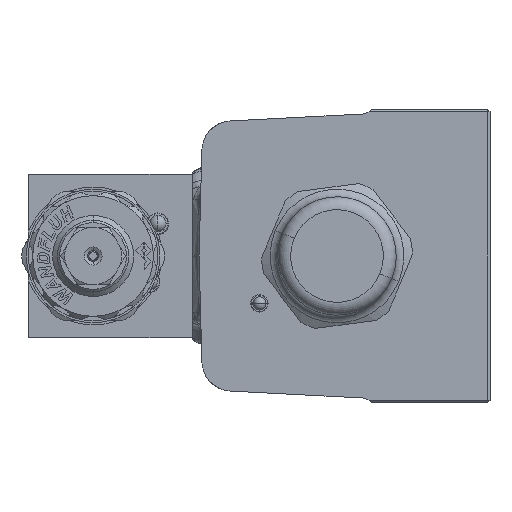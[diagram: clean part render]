
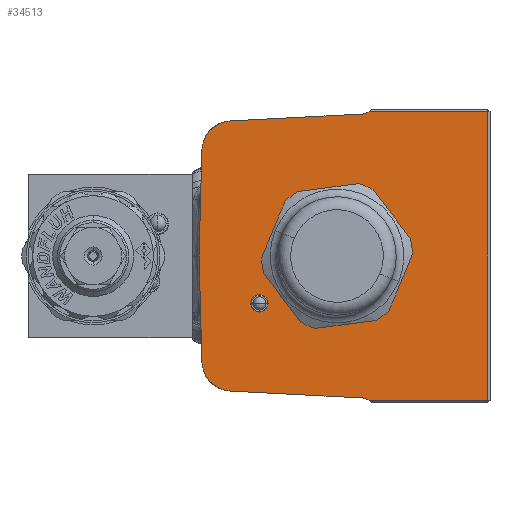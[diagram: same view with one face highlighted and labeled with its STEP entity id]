
A CAD part, left-side view. The second image highlights one B-rep face of the part: STEP entity #34513.
In plain terms, the highlighted planar face has unit normal (-1, 0, 0).
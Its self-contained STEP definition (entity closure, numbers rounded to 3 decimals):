
#267 = AXIS2_PLACEMENT_3D ( 'NONE', #14587, #55478, #20469 ) ;
#468 = CIRCLE ( 'NONE', #67017, 7. ) ;
#601 = AXIS2_PLACEMENT_3D ( 'NONE', #20289, #61102, #26175 ) ;
#670 = DIRECTION ( 'NONE',  ( -1., 0., 0. ) ) ;
#783 = CARTESIAN_POINT ( 'NONE',  ( -46.6, 31.978, 0.837 ) ) ;
#1149 = CIRCLE ( 'NONE', #27874, 3. ) ;
#1873 = CARTESIAN_POINT ( 'NONE',  ( -46.6, 31.978, -0.837 ) ) ;
#2543 = CARTESIAN_POINT ( 'NONE',  ( -46.6, -7.444, -33.5 ) ) ;
#2718 = EDGE_CURVE ( 'NONE', #64530, #26926, #14610, .T. ) ;
#2787 = DIRECTION ( 'NONE',  ( 0., -0.999, -0.052 ) ) ;
#2935 = LINE ( 'NONE', #4505, #10909 ) ;
#3416 = ORIENTED_EDGE ( 'NONE', *, *, #7044, .F. ) ;
#3589 = CARTESIAN_POINT ( 'NONE',  ( -46.6, -5.85, -32.94 ) ) ;
#3960 = ORIENTED_EDGE ( 'NONE', *, *, #2718, .T. ) ;
#4505 = CARTESIAN_POINT ( 'NONE',  ( -46.6, -35.5, 33.5 ) ) ;
#4576 = DIRECTION ( 'NONE',  ( 0., 0., 1. ) ) ;
#5376 = VERTEX_POINT ( 'NONE', #33061 ) ;
#7044 = EDGE_CURVE ( 'NONE', #18579, #5376, #54510, .T. ) ;
#8171 = CARTESIAN_POINT ( 'NONE',  ( -46.6, 1.706, -32.544 ) ) ;
#10909 = VECTOR ( 'NONE', #44806, 1000. ) ;
#11967 = AXIS2_PLACEMENT_3D ( 'NONE', #69063, #34225, #74952 ) ;
#13136 = AXIS2_PLACEMENT_3D ( 'NONE', #35429, #670, #41326 ) ;
#13433 = ORIENTED_EDGE ( 'NONE', *, *, #67701, .F. ) ;
#14199 = CARTESIAN_POINT ( 'NONE',  ( -46.6, -35., 33.5 ) ) ;
#14587 = CARTESIAN_POINT ( 'NONE',  ( -46.6, 0., 0. ) ) ;
#14610 = LINE ( 'NONE', #22641, #72592 ) ;
#17331 = VECTOR ( 'NONE', #60173, 1000. ) ;
#17564 = ORIENTED_EDGE ( 'NONE', *, *, #64453, .F. ) ;
#17931 = CARTESIAN_POINT ( 'NONE',  ( -46.6, -7.444, 33.5 ) ) ;
#18511 = FACE_OUTER_BOUND ( 'NONE', #26685, .T. ) ;
#18579 = VERTEX_POINT ( 'NONE', #56847 ) ;
#19489 = EDGE_CURVE ( 'NONE', #26926, #50349, #2935, .T. ) ;
#20289 = CARTESIAN_POINT ( 'NONE',  ( -46.6, -35.5, -34. ) ) ;
#20394 = AXIS2_PLACEMENT_3D ( 'NONE', #67465, #32576, #73308 ) ;
#20469 = DIRECTION ( 'NONE',  ( 0., -1., 0. ) ) ;
#21136 = CIRCLE ( 'NONE', #20394, 16. ) ;
#21313 = VERTEX_POINT ( 'NONE', #3589 ) ;
#21784 = EDGE_CURVE ( 'NONE', #61830, #66009, #65476, .T. ) ;
#22468 = AXIS2_PLACEMENT_3D ( 'NONE', #26863, #67613, #32733 ) ;
#22641 = CARTESIAN_POINT ( 'NONE',  ( -46.6, -35., -34. ) ) ;
#22797 = CARTESIAN_POINT ( 'NONE',  ( -46.6, 16., 0. ) ) ;
#22893 = CARTESIAN_POINT ( 'NONE',  ( -46.6, -5.693, 35.936 ) ) ;
#25590 = VERTEX_POINT ( 'NONE', #55426 ) ;
#25631 = DIRECTION ( 'NONE',  ( 0., -0.999, 0.052 ) ) ;
#25691 = CARTESIAN_POINT ( 'NONE',  ( -46.6, 24.726, 31.337 ) ) ;
#25934 = PLANE ( 'NONE',  #601 ) ;
#26175 = DIRECTION ( 'NONE',  ( 0., 0., 1. ) ) ;
#26685 = EDGE_LOOP ( 'NONE', ( #66947, #59565, #3960, #28502, #73089, #61243, #57099, #3416, #32681, #36880, #59150 ) ) ;
#26863 = CARTESIAN_POINT ( 'NONE',  ( -46.6, -5.693, -35.936 ) ) ;
#26926 = VERTEX_POINT ( 'NONE', #14199 ) ;
#27874 = AXIS2_PLACEMENT_3D ( 'NONE', #22893, #63679, #28777 ) ;
#28043 = CARTESIAN_POINT ( 'NONE',  ( -46.6, 24.36, 24.347 ) ) ;
#28502 = ORIENTED_EDGE ( 'NONE', *, *, #19489, .T. ) ;
#28777 = DIRECTION ( 'NONE',  ( 0., 0., 1. ) ) ;
#28781 = CIRCLE ( 'NONE', #72448, 2. ) ;
#29243 = CARTESIAN_POINT ( 'NONE',  ( -46.6, -35.5, -33.5 ) ) ;
#29832 = EDGE_LOOP ( 'NONE', ( #61687, #60048 ) ) ;
#30320 = VERTEX_POINT ( 'NONE', #36941 ) ;
#30946 = CARTESIAN_POINT ( 'NONE',  ( -46.6, 18., -11. ) ) ;
#31078 = EDGE_CURVE ( 'NONE', #58736, #64530, #35472, .T. ) ;
#32229 = EDGE_CURVE ( 'NONE', #63878, #67342, #51705, .T. ) ;
#32576 = DIRECTION ( 'NONE',  ( -1., 0., 0. ) ) ;
#32681 = ORIENTED_EDGE ( 'NONE', *, *, #53613, .T. ) ;
#32733 = DIRECTION ( 'NONE',  ( 0., 0., 1. ) ) ;
#32856 = CARTESIAN_POINT ( 'NONE',  ( -46.6, 18., -9. ) ) ;
#33061 = CARTESIAN_POINT ( 'NONE',  ( -46.6, 31.358, 24.53 ) ) ;
#33937 = DIRECTION ( 'NONE',  ( 0., 0., 1. ) ) ;
#34225 = DIRECTION ( 'NONE',  ( 1., 0., 0. ) ) ;
#34513 = ADVANCED_FACE ( 'NONE', ( #18511, #63175, #49530 ), #25934, .T. ) ;
#34663 = VECTOR ( 'NONE', #35110, 1000. ) ;
#35110 = DIRECTION ( 'NONE',  ( 0., -1., 0. ) ) ;
#35429 = CARTESIAN_POINT ( 'NONE',  ( -46.6, 18., -11. ) ) ;
#35472 = LINE ( 'NONE', #29243, #34663 ) ;
#36777 = DIRECTION ( 'NONE',  ( 0., 0., 1. ) ) ;
#36880 = ORIENTED_EDGE ( 'NONE', *, *, #32229, .F. ) ;
#36941 = CARTESIAN_POINT ( 'NONE',  ( -46.6, -16., 0. ) ) ;
#39915 = EDGE_CURVE ( 'NONE', #21313, #58736, #46006, .T. ) ;
#40799 = EDGE_CURVE ( 'NONE', #50349, #25590, #1149, .T. ) ;
#41326 = DIRECTION ( 'NONE',  ( 0., 0., 1. ) ) ;
#44806 = DIRECTION ( 'NONE',  ( 0., 1., 0. ) ) ;
#46006 = CIRCLE ( 'NONE', #22468, 3. ) ;
#47570 = LINE ( 'NONE', #8171, #49196 ) ;
#49196 = VECTOR ( 'NONE', #2787, 1000. ) ;
#49530 = FACE_BOUND ( 'NONE', #51856, .T. ) ;
#50349 = VERTEX_POINT ( 'NONE', #17931 ) ;
#50813 = EDGE_CURVE ( 'NONE', #60877, #25590, #75453, .T. ) ;
#51705 = CIRCLE ( 'NONE', #11967, 7. ) ;
#51856 = EDGE_LOOP ( 'NONE', ( #13433, #17564 ) ) ;
#52878 = VERTEX_POINT ( 'NONE', #22797 ) ;
#52954 = DIRECTION ( 'NONE',  ( 0., -0.026, 1. ) ) ;
#53613 = EDGE_CURVE ( 'NONE', #18579, #67342, #56940, .T. ) ;
#54367 = EDGE_CURVE ( 'NONE', #63878, #21313, #47570, .T. ) ;
#54510 = LINE ( 'NONE', #783, #71732 ) ;
#55426 = CARTESIAN_POINT ( 'NONE',  ( -46.6, -5.85, 32.94 ) ) ;
#55478 = DIRECTION ( 'NONE',  ( -1., 0., 0. ) ) ;
#56225 = CARTESIAN_POINT ( 'NONE',  ( -46.6, -35., -33.5 ) ) ;
#56847 = CARTESIAN_POINT ( 'NONE',  ( -46.6, 32., 0. ) ) ;
#56940 = LINE ( 'NONE', #1873, #17331 ) ;
#57099 = ORIENTED_EDGE ( 'NONE', *, *, #59724, .T. ) ;
#58736 = VERTEX_POINT ( 'NONE', #2543 ) ;
#59150 = ORIENTED_EDGE ( 'NONE', *, *, #54367, .T. ) ;
#59565 = ORIENTED_EDGE ( 'NONE', *, *, #31078, .T. ) ;
#59724 = EDGE_CURVE ( 'NONE', #60877, #5376, #468, .T. ) ;
#60048 = ORIENTED_EDGE ( 'NONE', *, *, #21784, .F. ) ;
#60173 = DIRECTION ( 'NONE',  ( 0., -0.026, -1. ) ) ;
#60574 = CARTESIAN_POINT ( 'NONE',  ( -46.6, 1.706, 32.544 ) ) ;
#60877 = VERTEX_POINT ( 'NONE', #25691 ) ;
#61102 = DIRECTION ( 'NONE',  ( -1., 0., 0. ) ) ;
#61218 = CARTESIAN_POINT ( 'NONE',  ( -46.6, 18., -13. ) ) ;
#61243 = ORIENTED_EDGE ( 'NONE', *, *, #50813, .F. ) ;
#61384 = EDGE_CURVE ( 'NONE', #66009, #61830, #28781, .T. ) ;
#61687 = ORIENTED_EDGE ( 'NONE', *, *, #61384, .F. ) ;
#61830 = VERTEX_POINT ( 'NONE', #61218 ) ;
#63175 = FACE_BOUND ( 'NONE', #29832, .T. ) ;
#63679 = DIRECTION ( 'NONE',  ( 1., 0., 0. ) ) ;
#63878 = VERTEX_POINT ( 'NONE', #66413 ) ;
#64453 = EDGE_CURVE ( 'NONE', #52878, #30320, #69879, .T. ) ;
#64530 = VERTEX_POINT ( 'NONE', #56225 ) ;
#65476 = CIRCLE ( 'NONE', #13136, 2. ) ;
#66009 = VERTEX_POINT ( 'NONE', #32856 ) ;
#66413 = CARTESIAN_POINT ( 'NONE',  ( -46.6, 24.726, -31.337 ) ) ;
#66947 = ORIENTED_EDGE ( 'NONE', *, *, #39915, .T. ) ;
#67017 = AXIS2_PLACEMENT_3D ( 'NONE', #28043, #68783, #33937 ) ;
#67342 = VERTEX_POINT ( 'NONE', #74931 ) ;
#67465 = CARTESIAN_POINT ( 'NONE',  ( -46.6, 0., 0. ) ) ;
#67613 = DIRECTION ( 'NONE',  ( 1., 0., 0. ) ) ;
#67701 = EDGE_CURVE ( 'NONE', #30320, #52878, #21136, .T. ) ;
#68783 = DIRECTION ( 'NONE',  ( -1., 0., 0. ) ) ;
#69063 = CARTESIAN_POINT ( 'NONE',  ( -46.6, 24.36, -24.347 ) ) ;
#69879 = CIRCLE ( 'NONE', #267, 16. ) ;
#71671 = DIRECTION ( 'NONE',  ( -1., 0., 0. ) ) ;
#71732 = VECTOR ( 'NONE', #52954, 1000. ) ;
#72448 = AXIS2_PLACEMENT_3D ( 'NONE', #30946, #71671, #36777 ) ;
#72573 = VECTOR ( 'NONE', #25631, 1000. ) ;
#72592 = VECTOR ( 'NONE', #4576, 1000. ) ;
#73089 = ORIENTED_EDGE ( 'NONE', *, *, #40799, .T. ) ;
#73308 = DIRECTION ( 'NONE',  ( 0., -1., 0. ) ) ;
#74931 = CARTESIAN_POINT ( 'NONE',  ( -46.6, 31.358, -24.53 ) ) ;
#74952 = DIRECTION ( 'NONE',  ( 0., 0., 1. ) ) ;
#75453 = LINE ( 'NONE', #60574, #72573 ) ;
